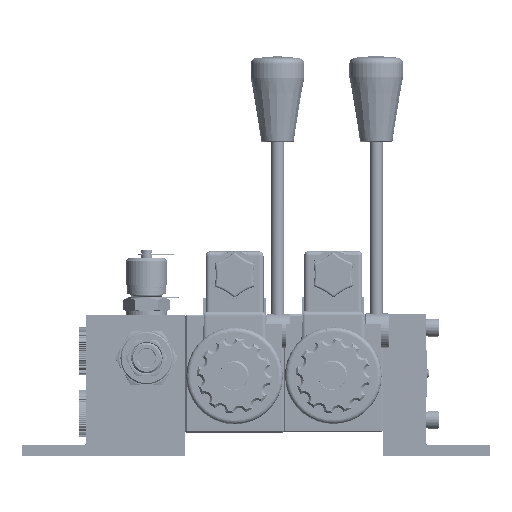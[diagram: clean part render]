
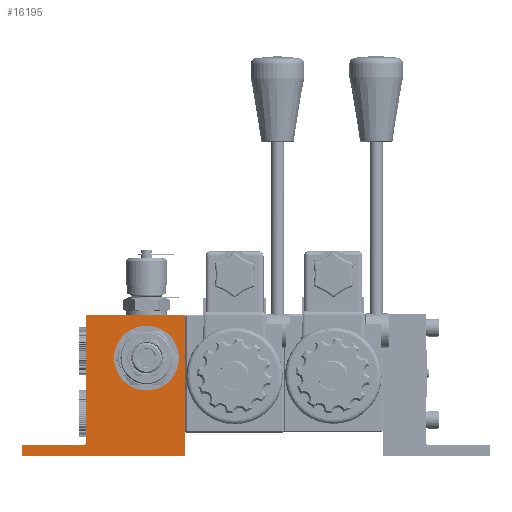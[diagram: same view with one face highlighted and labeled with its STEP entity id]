
A CAD part, left-side view. The second image highlights one B-rep face of the part: STEP entity #16195.
In plain terms, the highlighted planar face has unit normal (-1, 0, 0).
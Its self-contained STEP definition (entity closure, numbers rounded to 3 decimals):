
#5673=FACE_BOUND('',#26728,.T.);
#5674=FACE_BOUND('',#26729,.T.);
#12040=PLANE('',#82508);
#16195=ADVANCED_FACE('',(#5673,#5674),#12040,.T.);
#26728=EDGE_LOOP('',(#52681));
#26729=EDGE_LOOP('',(#52682,#52683,#52684,#52685,#52686,#52687,#52688));
#30884=LINE('',#334270,#34653);
#30888=LINE('',#334325,#34657);
#30892=LINE('',#334701,#34661);
#30899=LINE('',#334725,#34668);
#30902=LINE('',#334731,#34671);
#30909=LINE('',#334752,#34678);
#34653=VECTOR('',#102244,1.);
#34657=VECTOR('',#102254,1.);
#34661=VECTOR('',#102318,1.);
#34668=VECTOR('',#102337,1.);
#34671=VECTOR('',#102342,1.);
#34678=VECTOR('',#102359,1.);
#52681=ORIENTED_EDGE('',*,*,#69810,.T.);
#52682=ORIENTED_EDGE('',*,*,#69776,.F.);
#52683=ORIENTED_EDGE('',*,*,#69809,.F.);
#52684=ORIENTED_EDGE('',*,*,#69798,.F.);
#52685=ORIENTED_EDGE('',*,*,#69795,.F.);
#52686=ORIENTED_EDGE('',*,*,#69783,.F.);
#52687=ORIENTED_EDGE('',*,*,#69728,.F.);
#52688=ORIENTED_EDGE('',*,*,#69715,.F.);
#60252=VERTEX_POINT('',#334269);
#60253=VERTEX_POINT('',#334271);
#60265=VERTEX_POINT('',#334326);
#60307=VERTEX_POINT('',#334686);
#60314=VERTEX_POINT('',#334702);
#60325=VERTEX_POINT('',#334726);
#60327=VERTEX_POINT('',#334732);
#60336=VERTEX_POINT('',#334755);
#69715=EDGE_CURVE('',#60252,#60253,#30884,.T.);
#69728=EDGE_CURVE('',#60253,#60265,#30888,.T.);
#69776=EDGE_CURVE('',#60307,#60252,#74445,.T.);
#69783=EDGE_CURVE('',#60265,#60314,#30892,.T.);
#69795=EDGE_CURVE('',#60314,#60325,#30899,.T.);
#69798=EDGE_CURVE('',#60325,#60327,#30902,.T.);
#69809=EDGE_CURVE('',#60327,#60307,#30909,.T.);
#69810=EDGE_CURVE('',#60336,#60336,#74460,.T.);
#74445=CIRCLE('',#82487,2.);
#74460=CIRCLE('',#82507,15.1);
#82487=AXIS2_PLACEMENT_3D('',#334687,#102303,#102304);
#82507=AXIS2_PLACEMENT_3D('',#334754,#102362,#102363);
#82508=AXIS2_PLACEMENT_3D('',#334756,#102364,#102365);
#102244=DIRECTION('',(0.,0.,1.));
#102254=DIRECTION('',(0.,-1.,0.));
#102303=DIRECTION('',(-1.,0.,0.));
#102304=DIRECTION('',(0.,-1.,0.));
#102318=DIRECTION('',(0.,0.,-1.));
#102337=DIRECTION('',(0.,1.,0.));
#102342=DIRECTION('',(0.,0.,1.));
#102359=DIRECTION('',(0.,-1.,0.));
#102362=DIRECTION('',(1.,0.,0.));
#102363=DIRECTION('',(0.,1.,0.));
#102364=DIRECTION('',(-1.,0.,0.));
#102365=DIRECTION('',(0.,-1.,0.));
#334269=CARTESIAN_POINT('',(-0.51,143.435,11.974));
#334270=CARTESIAN_POINT('',(-0.51,143.435,11.974));
#334271=CARTESIAN_POINT('',(-0.51,143.435,70.974));
#334325=CARTESIAN_POINT('',(-0.51,143.435,70.974));
#334326=CARTESIAN_POINT('',(-0.51,97.435,70.974));
#334686=CARTESIAN_POINT('',(-0.51,145.435,9.974));
#334687=CARTESIAN_POINT('',(-0.51,145.435,11.974));
#334701=CARTESIAN_POINT('',(-0.51,97.435,70.974));
#334702=CARTESIAN_POINT('',(-0.51,97.435,4.974));
#334725=CARTESIAN_POINT('',(-0.51,97.435,4.974));
#334726=CARTESIAN_POINT('',(-0.51,173.435,4.974));
#334731=CARTESIAN_POINT('',(-0.51,173.435,4.974));
#334732=CARTESIAN_POINT('',(-0.51,173.435,9.974));
#334752=CARTESIAN_POINT('',(-0.51,173.435,9.974));
#334754=CARTESIAN_POINT('',(-0.51,115.435,50.674));
#334755=CARTESIAN_POINT('',(-0.51,130.535,50.674));
#334756=CARTESIAN_POINT('',(-0.51,145.435,11.974));
